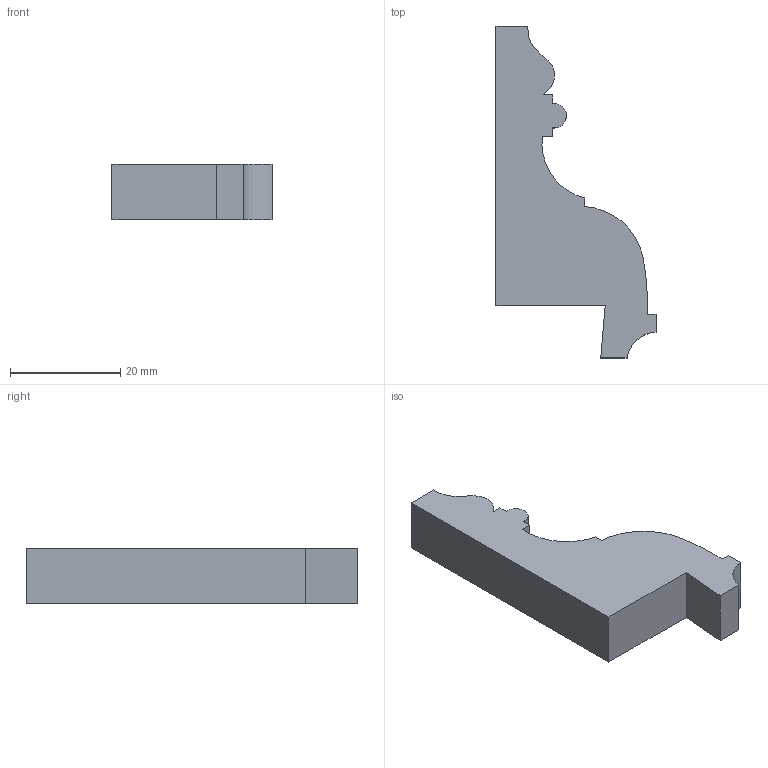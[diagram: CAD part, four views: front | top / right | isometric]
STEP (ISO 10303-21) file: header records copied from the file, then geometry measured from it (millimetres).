
FILE_DESCRIPTION (( 'STEP AP203' ), '1' );
FILE_NAME ('AB021.STEP', '2024-02-16T17:36:29', ( '' ), ( '' ), 'SwSTEP 2.0', 'SolidWorks 2020', '' );
FILE_SCHEMA (( 'CONFIG_CONTROL_DESIGN' ));
Length unit declared in the file: millimetre
Products named in the file (1): AB021
Bounding box: 29.08 x 60.33 x 10 mm (x, y, z)
Volume: 8614.6 mm3; surface area: 3465.1 mm2
Topology: 1 solids, 1 shells, 37 faces, 105 edges, 70 vertices
Faces by surface type: plane 32, cylinder 5
Entity records: 1266 total; most frequent: CARTESIAN_POINT 213, ORIENTED_EDGE 210, DIRECTION 191, EDGE_CURVE 105, LINE 95, VECTOR 95, VERTEX_POINT 70, AXIS2_PLACEMENT_3D 48
